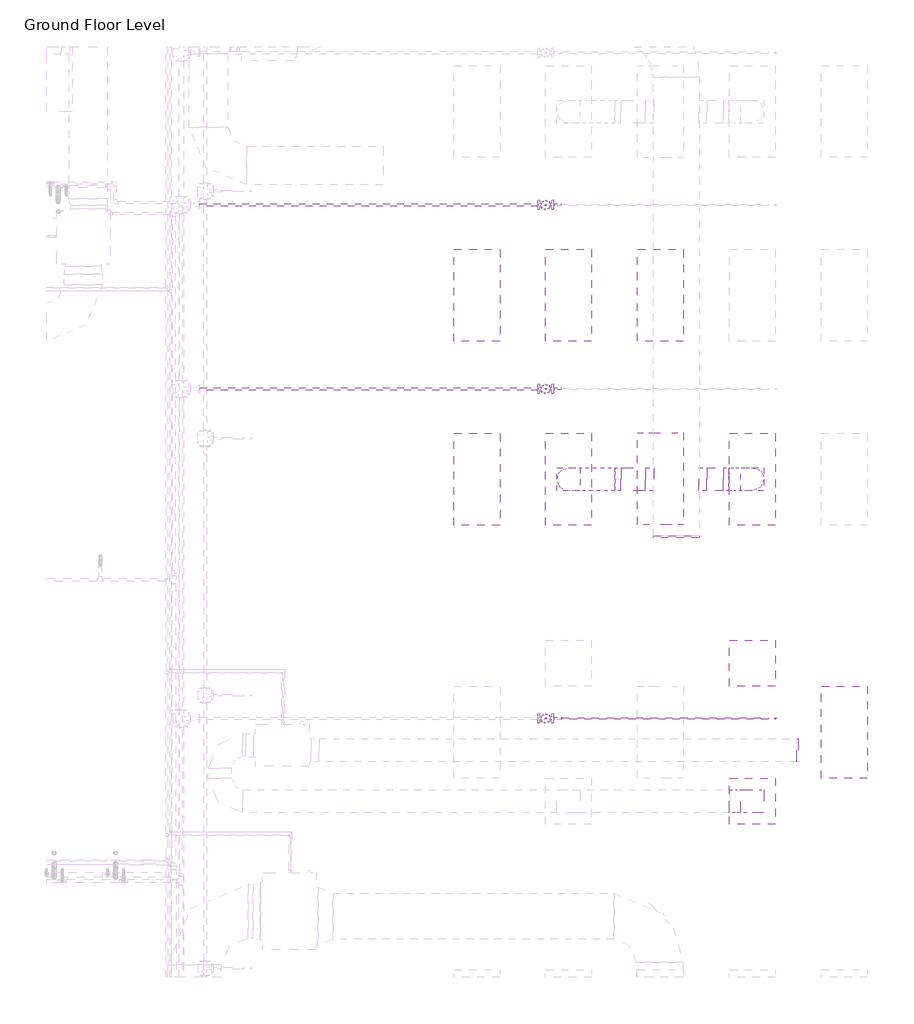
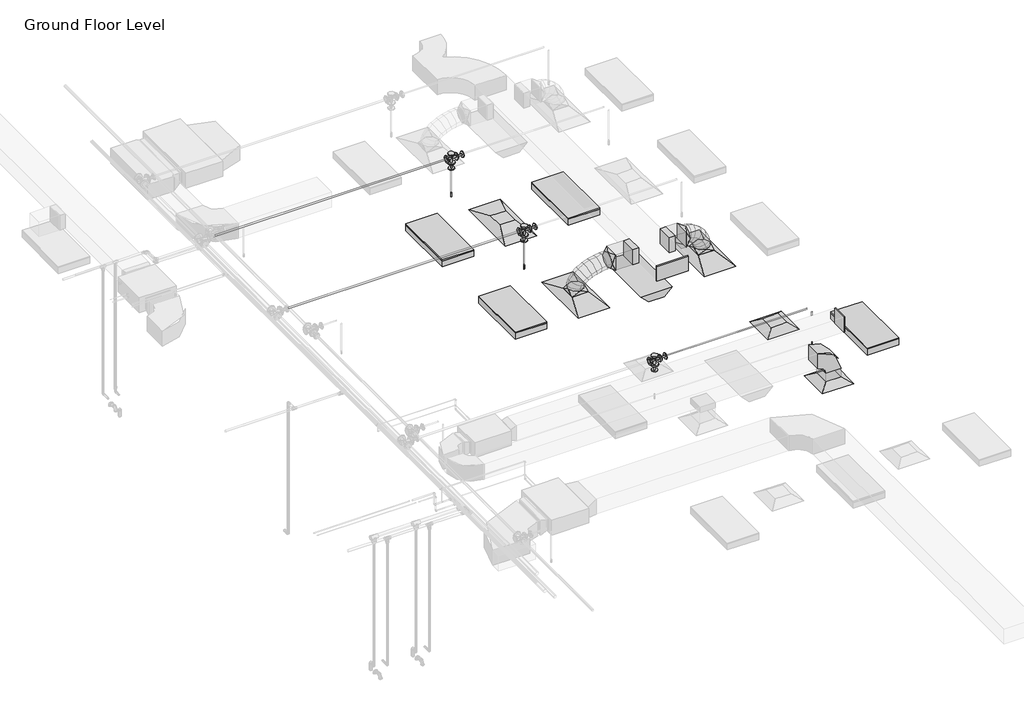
# One storey, part 23 of 75: 9 duct fittings, 9 pipe fittings, 7 pipe segments, 5 air terminals, 5 duct segments, 5 light fixtures, 3 fire suppression terminals.
"""IFC4 building model written with IfcOpenShell, lengths in millimetres."""

from ifc_helpers import new_model, si_unit, point, frame, frame_2d, origin, place, context, project, spatial, polyline, circle_curve, ellipse_curve, trimmed, segment, composite_curve, outline, extrude, transform, mapped, element, save
from ifc_brep_helpers import plane_surface, cylinder_surface, advanced_brep
from components import m_return_diffuser_1200x600_1200_x_600_face_300_x_300_d1983ef6, m_return_diffuser_600_x_600_face_300_x_300_connection_ff221211, m_rectangular_elbow_radius_1_w_618da153, m_rectangular_endcap_standard_0f0ff112, m_rectangular_endcap_standard_c319d4e7, m_rectangular_takeoff_standard_cb0ccb98, m_rectangular_takeoff_standard_2be5eba1, m_rectangular_to_round_transition_angle_45_degree_641efff0, m_sprinkler_dry_pendent_hosted_15_mm_dry_pendent_9bda8e11, m_emergency_recessed_lighting_fixture_600x1200_277_5b10b25d, m_troffer_light_parabolic_rectangular1_0600x1200mm_4_lamp_86473d4a, m_reducer_flanged_cs_class_150_standard_ccf252ad, m_tee_round_base_flanged_cs_class_150_standard_7e5987a1

model = new_model("IFC4")

# Units and contexts
model_context = context("Model", 3, world=origin())
ifc_project = project(units=[si_unit("LENGTHUNIT", "METRE", prefix="MILLI")], contexts=[model_context])

# Site, building, storey
site = spatial("IfcSite", under=ifc_project)
building = spatial("IfcBuilding", under=site)
storey = spatial("IfcBuildingStorey", under=building, Name="Ground Floor Level", Elevation=900.0)

# Air terminals
placement = place(None, origin())
m_return_diffuser_1200x600_1200_x_600_face_300_x_300_shape = m_return_diffuser_1200x600_1200_x_600_face_300_x_300_d1983ef6(model_context)
element("IfcAirTerminal", 1, ObjectType="M_Return Diffuser 1200x600 : 1200 x 600 Face 300 x 300 Connection", at=placement, inside=storey, context=model_context, shape_type="MappedRepresentation", body=[
    mapped(m_return_diffuser_1200x600_1200_x_600_face_300_x_300_shape, transform((10743.0482736, -25264.7846466, 3650.0), x_axis=(0.0, 1.0, 0.0), y_axis=(-1.0, 0.0, 0.0), z_axis=(0.0, 0.0, 1.0))),
])
m_return_diffuser_600_x_600_face_300_x_300_connection_shape = m_return_diffuser_600_x_600_face_300_x_300_connection_ff221211(model_context)
element("IfcAirTerminal", 2, ObjectType="M_Return Diffuser : 600 x 600 Face 300 x 300 Connection", at=placement, inside=storey, context=model_context, shape_type="MappedRepresentation", body=[
    mapped(m_return_diffuser_600_x_600_face_300_x_300_connection_shape, transform((13143.0482736, -31864.7846466, 3650.0), x_axis=(1.0, 0.0, 0.0), y_axis=(0.0, 1.0, 0.0), z_axis=(0.0, 0.0, 1.0))),
])
element("IfcAirTerminal", 3, ObjectType="M_Supply Diffuser 1200x600 : 1200 x 600 Face 300 x 300 Connection", at=placement, inside=storey, context=model_context, shape_type="MappedRepresentation", body=[
    mapped(m_return_diffuser_1200x600_1200_x_600_face_300_x_300_shape, transform((10743.0482736, -27664.7846466, 3650.0), x_axis=(0.0, 1.0, 0.0), y_axis=(-1.0, 0.0, 0.0), z_axis=(0.0, 0.0, 1.0))),
])
element("IfcAirTerminal", 4, ObjectType="M_Supply Diffuser 1200x600 : 1200 x 600 Face 300 x 300 Connection", at=placement, inside=storey, context=model_context, shape_type="MappedRepresentation", body=[
    mapped(m_return_diffuser_1200x600_1200_x_600_face_300_x_300_shape, transform((13143.0482736, -27664.7846466, 3650.0), x_axis=(0.0, 1.0, 0.0), y_axis=(-1.0, 0.0, 0.0), z_axis=(0.0, 0.0, 1.0))),
])
element("IfcAirTerminal", 5, ObjectType="M_Supply Diffuser : 600 x 600 Face 300 x 300 Connection", at=placement, inside=storey, context=model_context, shape_type="MappedRepresentation", body=[
    mapped(m_return_diffuser_600_x_600_face_300_x_300_connection_shape, transform((13143.0482736, -30064.7846466, 3650.0), x_axis=(1.0, 0.0, 0.0), y_axis=(0.0, 1.0, 0.0), z_axis=(0.0, 0.0, 1.0))),
])

# Duct fittings
m_rectangular_elbow_radius_1_w_shape = m_rectangular_elbow_radius_1_w_618da153(model_context)
element("IfcDuctFitting", 6, ObjectType="M_Rectangular Elbow - Radius : 1 W", at=placement, inside=storey, context=model_context, shape_type="MappedRepresentation", body=[
    mapped(m_rectangular_elbow_radius_1_w_shape, transform((13143.0482736, -31864.7846466, 4221.2), x_axis=(0.0, 0.0, 1.0), y_axis=(-1.0, 0.0, 0.0), z_axis=(0.0, -1.0, 0.0))),
])
m_rectangular_endcap_standard_shape = m_rectangular_endcap_standard_0f0ff112(model_context)
element("IfcDuctFitting", 7, ObjectType="M_Rectangular Endcap : Standard", at=placement, inside=storey, context=model_context, shape_type="MappedRepresentation", body=[
    mapped(m_rectangular_endcap_standard_shape, transform((12147.7826463, -28403.2846466, 4150.0002153), x_axis=(0.0, -1.0, 0.0), y_axis=(1.0, 0.0, 0.0), z_axis=(0.0, 0.0, 1.0))),
])
m_rectangular_endcap_standard_2_shape = m_rectangular_endcap_standard_c319d4e7(model_context)
element("IfcDuctFitting", 8, ObjectType="M_Rectangular Endcap : Standard", at=placement, inside=storey, context=model_context, shape_type="MappedRepresentation", body=[
    mapped(m_rectangular_endcap_standard_2_shape, transform((13719.2644074, -31200.1877703, 4245.9), x_axis=(0.9999999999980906, 0.0, -1.954187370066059e-06), y_axis=(0.0, 1.0000000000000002, 0.0), z_axis=(1.954187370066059e-06, 0.0, 0.9999999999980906))),
])
m_rectangular_takeoff_standard_shape = m_rectangular_takeoff_standard_cb0ccb98(model_context)
element("IfcDuctFitting", 9, ObjectType="M_Rectangular Takeoff : Standard", at=placement, inside=storey, context=model_context, shape_type="MappedRepresentation", body=[
    mapped(m_rectangular_takeoff_standard_shape, transform((12447.7826463, -27664.7846466, 4150.0), x_axis=(1.0, 0.0, 0.0), y_axis=(0.0, -1.0, 0.0), z_axis=(0.0, 0.0, -1.0))),
])
m_rectangular_takeoff_standard_2_shape = m_rectangular_takeoff_standard_2be5eba1(model_context)
element("IfcDuctFitting", 10, ObjectType="M_Rectangular Takeoff : Standard", at=placement, inside=storey, context=model_context, shape_type="MappedRepresentation", body=[
    mapped(m_rectangular_takeoff_standard_2_shape, transform((11847.7826463, -27664.7846466, 4150.0), x_axis=(-1.0, 0.0, 0.0), y_axis=(0.0, 1.0, 0.0), z_axis=(0.0, 0.0, -1.0))),
])
m_rectangular_to_round_transition_angle_45_degree_shape = m_rectangular_to_round_transition_angle_45_degree_641efff0(model_context)
element("IfcDuctFitting", 11, ObjectType="M_Rectangular to Round Transition - Angle : 45 Degree", at=placement, inside=storey, context=model_context, shape_type="MappedRepresentation", body=[
    mapped(m_rectangular_to_round_transition_angle_45_degree_shape, transform((10743.0482736, -27664.7846466, 3751.6), x_axis=(0.0, 0.0, 1.0), y_axis=(-1.0, 0.0, 0.0), z_axis=(0.0, -1.0, 0.0))),
])
element("IfcDuctFitting", 12, ObjectType="M_Rectangular to Round Transition - Angle : 45 Degree", at=placement, inside=storey, context=model_context, shape_type="MappedRepresentation", body=[
    mapped(m_rectangular_to_round_transition_angle_45_degree_shape, transform((11424.4842049, -27664.7846466, 4150.0), x_axis=(-1.0, 0.0, 0.0), y_axis=(0.0, -1.0, 0.0), z_axis=(0.0, 0.0, 1.0))),
])
element("IfcDuctFitting", 13, ObjectType="M_Rectangular to Round Transition - Angle : 45 Degree", at=placement, inside=storey, context=model_context, shape_type="MappedRepresentation", body=[
    mapped(m_rectangular_to_round_transition_angle_45_degree_shape, transform((13143.0482736, -27664.7846466, 3751.6), x_axis=(0.0, 0.0, 1.0), y_axis=(-1.0, 0.0, 0.0), z_axis=(0.0, -1.0, 0.0))),
])
element("IfcDuctFitting", 14, ObjectType="M_Rectangular to Round Transition - Angle : 45 Degree", at=placement, inside=storey, context=model_context, shape_type="MappedRepresentation", body=[
    mapped(m_rectangular_to_round_transition_angle_45_degree_shape, transform((12761.6123697, -27664.7846466, 4150.0), x_axis=(1.0, 0.0, 0.0), y_axis=(0.0, 1.0, 0.0), z_axis=(0.0, 0.0, 1.0))),
])

# Duct segments
element("IfcDuctSegment", 15, ObjectType="Flex - Round", at=placement, inside=storey, context=model_context, shape_type="AdvancedBrep", body=[
    advanced_brep(
    [(10893.0482736, -27664.7846466, 3826.6), (10743.0482736, -27814.7846466, 3826.6), (10593.0482736, -27664.7846466, 3826.6), (10743.0482736, -27514.7846466, 3826.6), (10893.0482736, -27664.7846466, 3832.4838104), (10743.0482736, -27814.7846466, 3857.3049615), (10593.0482736, -27664.7846466, 3882.1261126), (10743.0482736, -27514.7846466, 3857.3049615), (10895.1777586, -27664.7846466, 3838.7421096), (10759.7096782, -27814.7846466, 3906.2708192), (10624.2415979, -27664.7846466, 3973.7995287), (10759.7096782, -27514.7846466, 3906.2708192), (10917.1997864, -27664.7846466, 3871.1472855), (10805.5876959, -27814.7846466, 3973.7798261), (10693.9756053, -27664.7846466, 4076.4123668), (10805.5876959, -27514.7846466, 3973.7798261), (10957.142511, -27664.7846466, 3903.4915826), (10874.5230324, -27814.7846466, 4029.6013814), (10791.9035539, -27664.7846466, 4155.7111802), (10874.5230324, -27514.7846466, 4029.6013814), (11020.0646936, -27664.7846466, 3936.1928758), (10960.3563938, -27814.7846466, 4074.2098454), (10900.6480941, -27664.7846466, 4212.226815), (10960.3563938, -27514.7846466, 4074.2098454), (11098.9170855, -27664.7846466, 3963.8479616), (11056.9284859, -27814.7846466, 4108.0795788), (11014.9398863, -27664.7846466, 4252.311196), (11056.9284859, -27514.7846466, 4108.0795788), (11185.4890682, -27664.7846466, 3984.0509494), (11158.0800145, -27814.7846466, 4131.684942), (11130.6709609, -27664.7846466, 4279.3189347), (11158.0800145, -27514.7846466, 4131.684942), (11271.9732516, -27664.7846466, 3996.0504424), (11257.6516856, -27814.7846466, 4145.5002956), (11243.3301196, -27664.7846466, 4294.9501488), (11257.6516856, -27514.7846466, 4145.5002956), (11346.1345531, -27664.7846466, 4000.0), (11342.1431577, -27814.7846466, 4150.0), (11338.1517622, -27664.7846466, 4300.0), (11342.1431577, -27514.7846466, 4150.0), (11349.4842049, -27664.7846466, 4000.0), (11349.4842049, -27514.7846466, 4150.0), (11349.4842049, -27664.7846466, 4300.0), (11349.4842049, -27814.7846466, 4150.0)],
    [
        (0, 1, circle_curve(frame((10743.0482736, -27664.7846466, 3826.6), z_axis=(0.0, 0.0, -1.0), x_axis=(1.0, 0.0, 0.0)), 150.0)),
        (1, 2, circle_curve(frame((10743.0482736, -27664.7846466, 3826.6), z_axis=(0.0, 0.0, -1.0), x_axis=(1.0, 0.0, 0.0)), 150.0)),
        (2, 3, circle_curve(frame((10743.0482736, -27664.7846466, 3826.6), z_axis=(0.0, 0.0, -1.0), x_axis=(1.0, 0.0, 0.0)), 150.0)),
        (3, 0, circle_curve(frame((10743.0482736, -27664.7846466, 3826.6), z_axis=(0.0, 0.0, -1.0), x_axis=(1.0, 0.0, 0.0)), 150.0)),
        (0, 4),
        (4, 5, ellipse_curve(frame((10743.0482736, -27664.7846466, 3857.3049615), z_axis=(-0.1632543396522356, 0.0, -0.9865840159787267), x_axis=(0.9865840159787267, 0.0, -0.16325433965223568)), 152.039763, 150.0)),
        (5, 1),
        (5, 6, ellipse_curve(frame((10743.0482736, -27664.7846466, 3857.3049615), z_axis=(-0.1632543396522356, 0.0, -0.9865840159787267), x_axis=(0.9865840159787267, 0.0, -0.16325433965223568)), 152.039763, 150.0)),
        (6, 2),
        (6, 7, ellipse_curve(frame((10743.0482736, -27664.7846466, 3857.3049615), z_axis=(-0.1632543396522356, 0.0, -0.9865840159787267), x_axis=(0.9865840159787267, 0.0, -0.16325433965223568)), 152.039763, 150.0)),
        (7, 3),
        (7, 4, ellipse_curve(frame((10743.0482736, -27664.7846466, 3857.3049615), z_axis=(-0.1632543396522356, 0.0, -0.9865840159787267), x_axis=(0.9865840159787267, 0.0, -0.16325433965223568)), 152.039763, 150.0)),
        (4, 8),
        (8, 9, ellipse_curve(frame((10759.7096782, -27664.7846466, 3906.2708192), z_axis=(-0.4461280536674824, 0.0, -0.8949691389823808), x_axis=(0.8949691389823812, 0.0, -0.44612805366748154)), 151.366203, 150.0)),
        (9, 5),
        (9, 10, ellipse_curve(frame((10759.7096782, -27664.7846466, 3906.2708192), z_axis=(-0.4461280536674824, 0.0, -0.8949691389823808), x_axis=(0.8949691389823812, 0.0, -0.44612805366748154)), 151.366203, 150.0)),
        (10, 6),
        (10, 11, ellipse_curve(frame((10759.7096782, -27664.7846466, 3906.2708192), z_axis=(-0.4461280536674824, 0.0, -0.8949691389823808), x_axis=(0.8949691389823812, 0.0, -0.44612805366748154)), 151.366203, 150.0)),
        (11, 7),
        (11, 8, ellipse_curve(frame((10759.7096782, -27664.7846466, 3906.2708192), z_axis=(-0.4461280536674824, 0.0, -0.8949691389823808), x_axis=(0.8949691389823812, 0.0, -0.44612805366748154)), 151.366203, 150.0)),
        (8, 12),
        (12, 13, ellipse_curve(frame((10805.5876959, -27664.7846466, 3973.7798261), z_axis=(-0.6768758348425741, 0.0, -0.7360972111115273), x_axis=(0.7360972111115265, 0.0, -0.6768758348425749)), 151.6268352, 150.0)),
        (13, 9),
        (13, 14, ellipse_curve(frame((10805.5876959, -27664.7846466, 3973.7798261), z_axis=(-0.6768758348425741, 0.0, -0.7360972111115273), x_axis=(0.7360972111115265, 0.0, -0.6768758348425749)), 151.6268352, 150.0)),
        (14, 10),
        (14, 15, ellipse_curve(frame((10805.5876959, -27664.7846466, 3973.7798261), z_axis=(-0.6768758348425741, 0.0, -0.7360972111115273), x_axis=(0.7360972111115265, 0.0, -0.6768758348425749)), 151.6268352, 150.0)),
        (15, 11),
        (15, 12, ellipse_curve(frame((10805.5876959, -27664.7846466, 3973.7798261), z_axis=(-0.6768758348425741, 0.0, -0.7360972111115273), x_axis=(0.7360972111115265, 0.0, -0.6768758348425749)), 151.6268352, 150.0)),
        (12, 16),
        (16, 17, ellipse_curve(frame((10874.5230324, -27664.7846466, 4029.6013814), z_axis=(-0.8364738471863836, 0.0, -0.5480068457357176), x_axis=(0.5480068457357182, 0.0, -0.8364738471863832)), 150.7635884, 150.0)),
        (17, 13),
        (17, 18, ellipse_curve(frame((10874.5230324, -27664.7846466, 4029.6013814), z_axis=(-0.8364738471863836, 0.0, -0.5480068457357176), x_axis=(0.5480068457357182, 0.0, -0.8364738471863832)), 150.7635884, 150.0)),
        (18, 14),
        (18, 19, ellipse_curve(frame((10874.5230324, -27664.7846466, 4029.6013814), z_axis=(-0.8364738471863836, 0.0, -0.5480068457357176), x_axis=(0.5480068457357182, 0.0, -0.8364738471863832)), 150.7635884, 150.0)),
        (19, 15),
        (19, 16, ellipse_curve(frame((10874.5230324, -27664.7846466, 4029.6013814), z_axis=(-0.8364738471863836, 0.0, -0.5480068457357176), x_axis=(0.5480068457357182, 0.0, -0.8364738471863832)), 150.7635884, 150.0)),
        (16, 20),
        (20, 21, ellipse_curve(frame((10960.3563938, -27664.7846466, 4074.2098454), z_axis=(-0.9177957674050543, 0.0, -0.3970528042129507), x_axis=(0.3970528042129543, 0.0, -0.9177957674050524)), 150.3787384, 150.0)),
        (21, 17),
        (21, 22, ellipse_curve(frame((10960.3563938, -27664.7846466, 4074.2098454), z_axis=(-0.9177957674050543, 0.0, -0.3970528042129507), x_axis=(0.3970528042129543, 0.0, -0.9177957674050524)), 150.3787384, 150.0)),
        (22, 18),
        (22, 23, ellipse_curve(frame((10960.3563938, -27664.7846466, 4074.2098454), z_axis=(-0.9177957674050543, 0.0, -0.3970528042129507), x_axis=(0.3970528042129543, 0.0, -0.9177957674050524)), 150.3787384, 150.0)),
        (23, 19),
        (23, 20, ellipse_curve(frame((10960.3563938, -27664.7846466, 4074.2098454), z_axis=(-0.9177957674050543, 0.0, -0.3970528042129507), x_axis=(0.3970528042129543, 0.0, -0.9177957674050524)), 150.3787384, 150.0)),
        (20, 24),
        (24, 25, ellipse_curve(frame((11056.9284859, -27664.7846466, 4108.0795788), z_axis=(-0.9601411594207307, 0.0, -0.27951557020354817), x_axis=(0.2795155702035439, 0.0, -0.9601411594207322)), 150.2191795, 150.0)),
        (25, 21),
        (25, 26, ellipse_curve(frame((11056.9284859, -27664.7846466, 4108.0795788), z_axis=(-0.9601411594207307, 0.0, -0.27951557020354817), x_axis=(0.2795155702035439, 0.0, -0.9601411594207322)), 150.2191795, 150.0)),
        (26, 22),
        (26, 27, ellipse_curve(frame((11056.9284859, -27664.7846466, 4108.0795788), z_axis=(-0.9601411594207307, 0.0, -0.27951557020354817), x_axis=(0.2795155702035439, 0.0, -0.9601411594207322)), 150.2191795, 150.0)),
        (27, 23),
        (27, 24, ellipse_curve(frame((11056.9284859, -27664.7846466, 4108.0795788), z_axis=(-0.9601411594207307, 0.0, -0.27951557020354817), x_axis=(0.2795155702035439, 0.0, -0.9601411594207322)), 150.2191795, 150.0)),
        (24, 28),
        (28, 29, ellipse_curve(frame((11158.0800145, -27664.7846466, 4131.684942), z_axis=(-0.9831991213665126, 0.0, -0.1825362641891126), x_axis=(0.18253626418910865, 0.0, -0.9831991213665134)), 150.1567581, 150.0)),
        (29, 25),
        (29, 30, ellipse_curve(frame((11158.0800145, -27664.7846466, 4131.684942), z_axis=(-0.9831991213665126, 0.0, -0.1825362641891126), x_axis=(0.18253626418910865, 0.0, -0.9831991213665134)), 150.1567581, 150.0)),
        (30, 26),
        (30, 31, ellipse_curve(frame((11158.0800145, -27664.7846466, 4131.684942), z_axis=(-0.9831991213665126, 0.0, -0.1825362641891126), x_axis=(0.18253626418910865, 0.0, -0.9831991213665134)), 150.1567581, 150.0)),
        (31, 27),
        (31, 28, ellipse_curve(frame((11158.0800145, -27664.7846466, 4131.684942), z_axis=(-0.9831991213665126, 0.0, -0.1825362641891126), x_axis=(0.18253626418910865, 0.0, -0.9831991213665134)), 150.1567581, 150.0)),
        (28, 32),
        (32, 33, ellipse_curve(frame((11257.6516856, -27664.7846466, 4145.5002956), z_axis=(-0.9954398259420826, 0.0, -0.09539157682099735), x_axis=(0.09539157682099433, 0.0, -0.9954398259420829)), 150.1344926, 150.0)),
        (33, 29),
        (33, 34, ellipse_curve(frame((11257.6516856, -27664.7846466, 4145.5002956), z_axis=(-0.9954398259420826, 0.0, -0.09539157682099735), x_axis=(0.09539157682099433, 0.0, -0.9954398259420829)), 150.1344926, 150.0)),
        (34, 30),
        (34, 35, ellipse_curve(frame((11257.6516856, -27664.7846466, 4145.5002956), z_axis=(-0.9954398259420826, 0.0, -0.09539157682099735), x_axis=(0.09539157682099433, 0.0, -0.9954398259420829)), 150.1344926, 150.0)),
        (35, 31),
        (35, 32, ellipse_curve(frame((11257.6516856, -27664.7846466, 4145.5002956), z_axis=(-0.9954398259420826, 0.0, -0.09539157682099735), x_axis=(0.09539157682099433, 0.0, -0.9954398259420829)), 150.1344926, 150.0)),
        (32, 36),
        (36, 37, ellipse_curve(frame((11342.1431577, -27664.7846466, 4150.0), z_axis=(-0.9996461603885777, 0.0, -0.02659988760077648), x_axis=(0.026599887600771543, 0.0, -0.9996461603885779)), 150.0530947, 150.0)),
        (37, 33),
        (37, 38, ellipse_curve(frame((11342.1431577, -27664.7846466, 4150.0), z_axis=(-0.9996461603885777, 0.0, -0.02659988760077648), x_axis=(0.026599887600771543, 0.0, -0.9996461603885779)), 150.0530947, 150.0)),
        (38, 34),
        (38, 39, ellipse_curve(frame((11342.1431577, -27664.7846466, 4150.0), z_axis=(-0.9996461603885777, 0.0, -0.02659988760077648), x_axis=(0.026599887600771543, 0.0, -0.9996461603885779)), 150.0530947, 150.0)),
        (39, 35),
        (39, 36, ellipse_curve(frame((11342.1431577, -27664.7846466, 4150.0), z_axis=(-0.9996461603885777, 0.0, -0.02659988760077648), x_axis=(0.026599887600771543, 0.0, -0.9996461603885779)), 150.0530947, 150.0)),
        (40, 41, circle_curve(frame((11349.4842049, -27664.7846466, 4150.0), z_axis=(1.0, 0.0, 0.0), x_axis=(0.0, 0.0, -1.0)), 150.0)),
        (41, 42, circle_curve(frame((11349.4842049, -27664.7846466, 4150.0), z_axis=(1.0, 0.0, 0.0), x_axis=(0.0, 0.0, -1.0)), 150.0)),
        (42, 43, circle_curve(frame((11349.4842049, -27664.7846466, 4150.0), z_axis=(1.0, 0.0, 0.0), x_axis=(0.0, 0.0, -1.0)), 150.0)),
        (43, 40, circle_curve(frame((11349.4842049, -27664.7846466, 4150.0), z_axis=(1.0, 0.0, 0.0), x_axis=(0.0, 0.0, -1.0)), 150.0)),
        (36, 40),
        (43, 37),
        (42, 38),
        (41, 39),
    ],
    [
        plane_surface(frame((10743.0482736, -27814.7846466, 3826.6), z_axis=(0.0, 0.0, -1.0), x_axis=(1.0, 0.0, 0.0))),
        cylinder_surface(frame((10743.0482736, -27664.7846466, 3826.6), z_axis=(0.0, 0.0, -1.0), x_axis=(1.0, 0.0, 0.0)), 150.0),
        cylinder_surface(frame((10743.0482736, -27664.7846466, 3857.3049615), z_axis=(-0.32212824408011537, 0.0, -0.946696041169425), x_axis=(0.946696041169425, 0.0, -0.32212824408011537)), 150.0),
        cylinder_surface(frame((10759.7096782, -27664.7846466, 3906.2708192), z_axis=(-0.5620745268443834, 0.0, -0.827086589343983), x_axis=(0.827086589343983, 0.0, -0.5620745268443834)), 150.0),
        cylinder_surface(frame((10805.5876959, -27664.7846466, 3973.7798261), z_axis=(-0.7771524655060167, 0.0, -0.6293123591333), x_axis=(0.6293123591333, 0.0, -0.7771524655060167)), 150.0),
        cylinder_surface(frame((10874.5230324, -27664.7846466, 4029.6013814), z_axis=(-0.8873220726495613, 0.0, -0.4611502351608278), x_axis=(0.4611502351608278, 0.0, -0.8873220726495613)), 150.0),
        cylinder_surface(frame((10960.3563938, -27664.7846466, 4074.2098454), z_axis=(-0.9436464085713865, 0.0, -0.33095536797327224), x_axis=(0.33095536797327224, 0.0, -0.9436464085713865)), 150.0),
        cylinder_surface(frame((11056.9284859, -27664.7846466, 4108.0795788), z_axis=(-0.9738340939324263, 0.0, -0.22726010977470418), x_axis=(0.22726010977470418, 0.0, -0.9738340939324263)), 150.0),
        cylinder_surface(frame((11158.0800145, -27664.7846466, 4131.684942), z_axis=(-0.9905113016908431, 0.0, -0.13743129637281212), x_axis=(0.13743129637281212, 0.0, -0.9905113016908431)), 150.0),
        cylinder_surface(frame((11257.6516856, -27664.7846466, 4145.5002956), z_axis=(-0.9985848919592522, 0.0, -0.05318095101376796), x_axis=(0.05318095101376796, 0.0, -0.9985848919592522)), 150.0),
        plane_surface(frame((11349.4842049, -27664.7846466, 4000.0), z_axis=(1.0, 0.0, 0.0), x_axis=(0.0, 1.0, 0.0))),
        cylinder_surface(frame((11342.1431577, -27664.7846466, 4150.0), z_axis=(-1.0, 0.0, 0.0), x_axis=(0.0, 0.0, -1.0)), 150.0),
    ],
    [
        (0, [[1, 2, 3, 4]]),
        (1, [[-1, 5, 6, 7]]),
        (1, [[-2, -7, 8, 9]]),
        (1, [[-3, -9, 10, 11]]),
        (1, [[-4, -11, 12, -5]]),
        (2, [[-6, 13, 14, 15]]),
        (2, [[-8, -15, 16, 17]]),
        (2, [[-10, -17, 18, 19]]),
        (2, [[-12, -19, 20, -13]]),
        (3, [[-14, 21, 22, 23]]),
        (3, [[-16, -23, 24, 25]]),
        (3, [[-18, -25, 26, 27]]),
        (3, [[-20, -27, 28, -21]]),
        (4, [[-22, 29, 30, 31]]),
        (4, [[-24, -31, 32, 33]]),
        (4, [[-26, -33, 34, 35]]),
        (4, [[-28, -35, 36, -29]]),
        (5, [[-30, 37, 38, 39]]),
        (5, [[-32, -39, 40, 41]]),
        (5, [[-34, -41, 42, 43]]),
        (5, [[-36, -43, 44, -37]]),
        (6, [[-38, 45, 46, 47]]),
        (6, [[-40, -47, 48, 49]]),
        (6, [[-42, -49, 50, 51]]),
        (6, [[-44, -51, 52, -45]]),
        (7, [[-46, 53, 54, 55]]),
        (7, [[-48, -55, 56, 57]]),
        (7, [[-50, -57, 58, 59]]),
        (7, [[-52, -59, 60, -53]]),
        (8, [[-54, 61, 62, 63]]),
        (8, [[-56, -63, 64, 65]]),
        (8, [[-58, -65, 66, 67]]),
        (8, [[-60, -67, 68, -61]]),
        (9, [[-62, 69, 70, 71]]),
        (9, [[-64, -71, 72, 73]]),
        (9, [[-66, -73, 74, 75]]),
        (9, [[-68, -75, 76, -69]]),
        (10, [[77, 78, 79, 80]]),
        (11, [[-70, 81, -80, 82]]),
        (11, [[-72, -82, -79, 83]]),
        (11, [[-74, -83, -78, 84]]),
        (11, [[-76, -84, -77, -81]]),
    ],
),
])
element("IfcDuctSegment", 16, ObjectType="Flex - Round", at=placement, inside=storey, context=model_context, shape_type="AdvancedBrep", body=[
    advanced_brep(
    [(13293.0482736, -27664.7846466, 3826.6), (13143.0482736, -27814.7846466, 3826.6), (12993.0482736, -27664.7846466, 3826.6), (13143.0482736, -27514.7846466, 3826.6), (13293.0482736, -27664.7846466, 3876.0801767), (13143.0482736, -27814.7846466, 3855.2056793), (12993.0482736, -27664.7846466, 3834.331182), (13143.0482736, -27514.7846466, 3855.2056793), (13265.1827192, -27664.7846466, 3974.2594203), (13125.4356677, -27814.7846466, 3917.2605124), (12985.6886162, -27664.7846466, 3860.2616044), (13125.4356677, -27514.7846466, 3917.2605124), (13200.6413272, -27664.7846466, 4092.9659573), (13077.9530197, -27814.7846466, 4004.5920764), (12955.2647122, -27664.7846466, 3916.2181955), (13077.9530197, -27514.7846466, 4004.5920764), (13104.756489, -27664.7846466, 4195.7964668), (13008.6330843, -27814.7846466, 4078.9333843), (12912.5096796, -27664.7846466, 3962.0703018), (13008.6330843, -27514.7846466, 4078.9333843), (12990.1100986, -27664.7846466, 4267.0876603), (12925.5086161, -27814.7846466, 4130.6231281), (12860.9071335, -27664.7846466, 3994.1585959), (12925.5086161, -27514.7846466, 4130.6231281), (12893.3774283, -27664.7846466, 4300.0), (12868.5580444, -27814.7846466, 4150.0), (12843.7386605, -27664.7846466, 4000.0), (12868.5580444, -27514.7846466, 4150.0), (12836.6123697, -27664.7846466, 4300.0), (12836.6123697, -27814.7846466, 4150.0), (12836.6123697, -27664.7846466, 4000.0), (12836.6123697, -27514.7846466, 4150.0)],
    [
        (0, 1, circle_curve(frame((13143.0482736, -27664.7846466, 3826.6), z_axis=(0.0, 0.0, -1.0), x_axis=(1.0, 0.0, 0.0)), 150.0)),
        (1, 2, circle_curve(frame((13143.0482736, -27664.7846466, 3826.6), z_axis=(0.0, 0.0, -1.0), x_axis=(1.0, 0.0, 0.0)), 150.0)),
        (2, 3, circle_curve(frame((13143.0482736, -27664.7846466, 3826.6), z_axis=(0.0, 0.0, -1.0), x_axis=(1.0, 0.0, 0.0)), 150.0)),
        (3, 0, circle_curve(frame((13143.0482736, -27664.7846466, 3826.6), z_axis=(0.0, 0.0, -1.0), x_axis=(1.0, 0.0, 0.0)), 150.0)),
        (0, 4),
        (4, 5, ellipse_curve(frame((13143.0482736, -27664.7846466, 3855.2056793), z_axis=(0.13783502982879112, 0.0, -0.990455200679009), x_axis=(-0.990455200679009, 0.0, -0.1378350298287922)), 151.4455171, 150.0)),
        (5, 1),
        (5, 6, ellipse_curve(frame((13143.0482736, -27664.7846466, 3855.2056793), z_axis=(0.13783502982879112, 0.0, -0.990455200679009), x_axis=(-0.990455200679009, 0.0, -0.1378350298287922)), 151.4455171, 150.0)),
        (6, 2),
        (6, 7, ellipse_curve(frame((13143.0482736, -27664.7846466, 3855.2056793), z_axis=(0.13783502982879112, 0.0, -0.990455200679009), x_axis=(-0.990455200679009, 0.0, -0.1378350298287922)), 151.4455171, 150.0)),
        (7, 3),
        (7, 4, ellipse_curve(frame((13143.0482736, -27664.7846466, 3855.2056793), z_axis=(0.13783502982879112, 0.0, -0.990455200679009), x_axis=(-0.990455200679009, 0.0, -0.1378350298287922)), 151.4455171, 150.0)),
        (4, 8),
        (8, 9, ellipse_curve(frame((13125.4356677, -27664.7846466, 3917.2605124), z_axis=(0.37766579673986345, 0.0, -0.9259419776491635), x_axis=(-0.9259419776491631, 0.0, -0.3776657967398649)), 150.9241992, 150.0)),
        (9, 5),
        (9, 10, ellipse_curve(frame((13125.4356677, -27664.7846466, 3917.2605124), z_axis=(0.37766579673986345, 0.0, -0.9259419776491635), x_axis=(-0.9259419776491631, 0.0, -0.3776657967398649)), 150.9241992, 150.0)),
        (10, 6),
        (10, 11, ellipse_curve(frame((13125.4356677, -27664.7846466, 3917.2605124), z_axis=(0.37766579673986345, 0.0, -0.9259419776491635), x_axis=(-0.9259419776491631, 0.0, -0.3776657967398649)), 150.9241992, 150.0)),
        (11, 7),
        (11, 8, ellipse_curve(frame((13125.4356677, -27664.7846466, 3917.2605124), z_axis=(0.37766579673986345, 0.0, -0.9259419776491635), x_axis=(-0.9259419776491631, 0.0, -0.3776657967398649)), 150.9241992, 150.0)),
        (8, 12),
        (12, 13, ellipse_curve(frame((13077.9530197, -27664.7846466, 4004.5920764), z_axis=(0.584471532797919, 0.0, -0.8114142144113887), x_axis=(-0.8114142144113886, 0.0, -0.5844715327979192)), 151.2030542, 150.0)),
        (13, 9),
        (13, 14, ellipse_curve(frame((13077.9530197, -27664.7846466, 4004.5920764), z_axis=(0.584471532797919, 0.0, -0.8114142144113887), x_axis=(-0.8114142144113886, 0.0, -0.5844715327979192)), 151.2030542, 150.0)),
        (14, 10),
        (14, 15, ellipse_curve(frame((13077.9530197, -27664.7846466, 4004.5920764), z_axis=(0.584471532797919, 0.0, -0.8114142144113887), x_axis=(-0.8114142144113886, 0.0, -0.5844715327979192)), 151.2030542, 150.0)),
        (15, 11),
        (15, 12, ellipse_curve(frame((13077.9530197, -27664.7846466, 4004.5920764), z_axis=(0.584471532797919, 0.0, -0.8114142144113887), x_axis=(-0.8114142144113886, 0.0, -0.5844715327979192)), 151.2030542, 150.0)),
        (12, 16),
        (16, 17, ellipse_curve(frame((13008.6330843, -27664.7846466, 4078.9333843), z_axis=(0.7723088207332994, 0.0, -0.6352472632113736), x_axis=(-0.6352472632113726, 0.0, -0.7723088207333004)), 151.3165192, 150.0)),
        (17, 13),
        (17, 18, ellipse_curve(frame((13008.6330843, -27664.7846466, 4078.9333843), z_axis=(0.7723088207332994, 0.0, -0.6352472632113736), x_axis=(-0.6352472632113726, 0.0, -0.7723088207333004)), 151.3165192, 150.0)),
        (18, 14),
        (18, 19, ellipse_curve(frame((13008.6330843, -27664.7846466, 4078.9333843), z_axis=(0.7723088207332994, 0.0, -0.6352472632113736), x_axis=(-0.6352472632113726, 0.0, -0.7723088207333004)), 151.3165192, 150.0)),
        (19, 15),
        (19, 16, ellipse_curve(frame((13008.6330843, -27664.7846466, 4078.9333843), z_axis=(0.7723088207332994, 0.0, -0.6352472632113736), x_axis=(-0.6352472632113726, 0.0, -0.7723088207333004)), 151.3165192, 150.0)),
        (16, 20),
        (20, 21, ellipse_curve(frame((12925.5086161, -27664.7846466, 4130.6231281), z_axis=(0.9038393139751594, 0.0, -0.4278720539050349), x_axis=(-0.42787205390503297, 0.0, -0.9038393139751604)), 150.9831782, 150.0)),
        (21, 17),
        (21, 22, ellipse_curve(frame((12925.5086161, -27664.7846466, 4130.6231281), z_axis=(0.9038393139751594, 0.0, -0.4278720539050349), x_axis=(-0.42787205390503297, 0.0, -0.9038393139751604)), 150.9831782, 150.0)),
        (22, 18),
        (22, 23, ellipse_curve(frame((12925.5086161, -27664.7846466, 4130.6231281), z_axis=(0.9038393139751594, 0.0, -0.4278720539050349), x_axis=(-0.42787205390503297, 0.0, -0.9038393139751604)), 150.9831782, 150.0)),
        (23, 19),
        (23, 20, ellipse_curve(frame((12925.5086161, -27664.7846466, 4130.6231281), z_axis=(0.9038393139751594, 0.0, -0.4278720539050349), x_axis=(-0.42787205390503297, 0.0, -0.9038393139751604)), 150.9831782, 150.0)),
        (20, 24),
        (24, 25, ellipse_curve(frame((12868.5580444, -27664.7846466, 4150.0), z_axis=(0.9865858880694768, 0.0, -0.1632430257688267), x_axis=(-0.16324302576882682, 0.0, -0.9865858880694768)), 152.0394745, 150.0)),
        (25, 21),
        (25, 26, ellipse_curve(frame((12868.5580444, -27664.7846466, 4150.0), z_axis=(0.9865858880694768, 0.0, -0.1632430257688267), x_axis=(-0.16324302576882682, 0.0, -0.9865858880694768)), 152.0394745, 150.0)),
        (26, 22),
        (26, 27, ellipse_curve(frame((12868.5580444, -27664.7846466, 4150.0), z_axis=(0.9865858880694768, 0.0, -0.1632430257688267), x_axis=(-0.16324302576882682, 0.0, -0.9865858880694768)), 152.0394745, 150.0)),
        (27, 23),
        (27, 24, ellipse_curve(frame((12868.5580444, -27664.7846466, 4150.0), z_axis=(0.9865858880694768, 0.0, -0.1632430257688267), x_axis=(-0.16324302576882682, 0.0, -0.9865858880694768)), 152.0394745, 150.0)),
        (24, 28),
        (28, 29, circle_curve(frame((12836.6123697, -27664.7846466, 4150.0), z_axis=(1.0, 0.0, 0.0), x_axis=(0.0, 0.0, 1.0)), 150.0)),
        (29, 25),
        (29, 30, circle_curve(frame((12836.6123697, -27664.7846466, 4150.0), z_axis=(1.0, 0.0, 0.0), x_axis=(0.0, 0.0, 1.0)), 150.0)),
        (30, 26),
        (30, 31, circle_curve(frame((12836.6123697, -27664.7846466, 4150.0), z_axis=(1.0, 0.0, 0.0), x_axis=(0.0, 0.0, 1.0)), 150.0)),
        (31, 27),
        (31, 28, circle_curve(frame((12836.6123697, -27664.7846466, 4150.0), z_axis=(1.0, 0.0, 0.0), x_axis=(0.0, 0.0, 1.0)), 150.0)),
    ],
    [
        plane_surface(frame((13143.0482736, -27814.7846466, 3826.6), z_axis=(0.0, 0.0, -1.0), x_axis=(1.0, 0.0, 0.0))),
        cylinder_surface(frame((13143.0482736, -27664.7846466, 3826.6), z_axis=(0.0, 0.0, -1.0), x_axis=(1.0, 0.0, 0.0)), 150.0),
        cylinder_surface(frame((13143.0482736, -27664.7846466, 3855.2056793), z_axis=(0.27303884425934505, 0.0, -0.9620030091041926), x_axis=(0.9620030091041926, 0.0, 0.27303884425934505)), 150.0),
        cylinder_surface(frame((13125.4356677, -27664.7846466, 3917.2605124), z_axis=(0.4776674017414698, 0.0, -0.8785407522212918), x_axis=(0.8785407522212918, 0.0, 0.4776674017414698)), 150.0),
        cylinder_surface(frame((13077.9530197, -27664.7846466, 4004.5920764), z_axis=(0.6819749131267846, 0.0, -0.7313755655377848), x_axis=(0.7313755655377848, 0.0, 0.6819749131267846)), 150.0),
        cylinder_surface(frame((13008.6330843, -27664.7846466, 4078.9333843), z_axis=(0.8492038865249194, 0.0, -0.5280651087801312), x_axis=(0.5280651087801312, 0.0, 0.8492038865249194)), 150.0),
        cylinder_surface(frame((12925.5086161, -27664.7846466, 4130.6231281), z_axis=(0.9467034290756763, 0.0, -0.32210653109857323), x_axis=(0.32210653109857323, 0.0, 0.9467034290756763)), 150.0),
        cylinder_surface(frame((12868.5580444, -27664.7846466, 4150.0), z_axis=(1.0, 0.0, 0.0), x_axis=(0.0, 0.0, 1.0)), 150.0),
        plane_surface(frame((12836.6123697, -27664.7846466, 4000.0), z_axis=(-1.0, 0.0, 0.0), x_axis=(0.0, -1.0, 0.0))),
    ],
    [
        (0, [[1, 2, 3, 4]]),
        (1, [[-1, 5, 6, 7]]),
        (1, [[-2, -7, 8, 9]]),
        (1, [[-3, -9, 10, 11]]),
        (1, [[-4, -11, 12, -5]]),
        (2, [[-6, 13, 14, 15]]),
        (2, [[-8, -15, 16, 17]]),
        (2, [[-10, -17, 18, 19]]),
        (2, [[-12, -19, 20, -13]]),
        (3, [[-14, 21, 22, 23]]),
        (3, [[-16, -23, 24, 25]]),
        (3, [[-18, -25, 26, 27]]),
        (3, [[-20, -27, 28, -21]]),
        (4, [[-22, 29, 30, 31]]),
        (4, [[-24, -31, 32, 33]]),
        (4, [[-26, -33, 34, 35]]),
        (4, [[-28, -35, 36, -29]]),
        (5, [[-30, 37, 38, 39]]),
        (5, [[-32, -39, 40, 41]]),
        (5, [[-34, -41, 42, 43]]),
        (5, [[-36, -43, 44, -37]]),
        (6, [[-38, 45, 46, 47]]),
        (6, [[-40, -47, 48, 49]]),
        (6, [[-42, -49, 50, 51]]),
        (6, [[-44, -51, 52, -45]]),
        (7, [[-46, 53, 54, 55]]),
        (7, [[-48, -55, 56, 57]]),
        (7, [[-50, -57, 58, 59]]),
        (7, [[-52, -59, 60, -53]]),
        (8, [[-60, -58, -56, -54]]),
    ],
),
])
element("IfcDuctSegment", 17, ObjectType="Radius Elbows / Taps", at=placement, inside=storey, context=model_context, shape_type="SweptSolid", body=[
    extrude(outline(polyline([(11746.1826463, -27514.7846466), (11746.1826463, -27814.7846466), (11424.4842049, -27814.7846466), (11424.4842049, -27514.7846466), (11746.1826463, -27514.7846466)])), frame((0.0, 0.0, 4000.0), z_axis=(0.0, 0.0, 1.0), x_axis=(1.0, 0.0, 0.0)), (0.0, 0.0, 1.0), 300.0),
])
element("IfcDuctSegment", 18, ObjectType="Radius Elbows / Taps", at=placement, inside=storey, context=model_context, shape_type="SweptSolid", body=[
    extrude(outline(polyline([(12549.3826463, -27814.7846466), (12549.3826463, -27514.7846466), (12761.6123697, -27514.7846466), (12761.6123697, -27814.7846466), (12549.3826463, -27814.7846466)])), frame((0.0, 0.0, 4000.0), z_axis=(0.0, 0.0, 1.0), x_axis=(1.0, 0.0, 0.0)), (0.0, 0.0, 1.0), 300.0),
])
element("IfcDuctSegment", 19, ObjectType="Radius Elbows / Taps", at=placement, inside=storey, context=model_context, shape_type="SweptSolid", body=[
    extrude(outline(polyline([(12993.0482736, -32014.7846466), (12993.0482736, -31714.7846466), (13293.0482736, -31714.7846466), (13293.0482736, -32014.7846466), (12993.0482736, -32014.7846466)])), frame((0.0, 0.0, 3751.6), z_axis=(0.0, 0.0, 1.0), x_axis=(1.0, 0.0, 0.0)), (0.0, 0.0, 1.0), 169.6),
])

# Fire suppression terminals
m_sprinkler_dry_pendent_hosted_15_mm_dry_pendent_shape = m_sprinkler_dry_pendent_hosted_15_mm_dry_pendent_9bda8e11(model_context)
element("IfcFireSuppressionTerminal", 20, ObjectType="M_Sprinkler - Dry - Pendent - Hosted : 15 mm Dry Pendent", at=placement, inside=storey, context=model_context, shape_type="MappedRepresentation", body=[
    mapped(m_sprinkler_dry_pendent_hosted_15_mm_dry_pendent_shape, transform((10443.0482736, -24083.6779349, 3650.0), x_axis=(1.0, 0.0, 0.0), y_axis=(0.0, -1.0, 0.0), z_axis=(0.0, 0.0, -1.0))),
])
element("IfcFireSuppressionTerminal", 21, ObjectType="M_Sprinkler - Dry - Pendent - Hosted : 15 mm Dry Pendent", at=placement, inside=storey, context=model_context, shape_type="MappedRepresentation", body=[
    mapped(m_sprinkler_dry_pendent_hosted_15_mm_dry_pendent_shape, transform((10443.0482736, -26484.6295433, 3650.0), x_axis=(1.0, 0.0, 0.0), y_axis=(0.0, -1.0, 0.0), z_axis=(0.0, 0.0, -1.0))),
])
element("IfcFireSuppressionTerminal", 22, ObjectType="M_Sprinkler - Dry - Pendent - Hosted : 15 mm Dry Pendent", at=placement, inside=storey, context=model_context, shape_type="MappedRepresentation", body=[
    mapped(m_sprinkler_dry_pendent_hosted_15_mm_dry_pendent_shape, transform((13443.0482736, -30785.1783804, 3650.0), x_axis=(1.0, 0.0, 0.0), y_axis=(0.0, -1.0, 0.0), z_axis=(0.0, 0.0, -1.0))),
])

# Light fixtures
m_emergency_recessed_lighting_fixture_600x1200_277_shape = m_emergency_recessed_lighting_fixture_600x1200_277_5b10b25d(model_context)
element("IfcLightFixture", 23, ObjectType="M_Emergency Recessed Lighting Fixture : 600x1200 - 277", at=placement, inside=storey, context=model_context, shape_type="MappedRepresentation", body=[
    mapped(m_emergency_recessed_lighting_fixture_600x1200_277_shape, transform((11643.0482736, -28254.7846466, 3650.0), x_axis=(0.0, 1.0, 0.0), y_axis=(-1.0, 0.0, 0.0), z_axis=(0.0, 0.0, 1.0))),
])
m_troffer_light_parabolic_rectangular1_0600x1200mm_4_lamp_shape = m_troffer_light_parabolic_rectangular1_0600x1200mm_4_lamp_86473d4a(model_context)
element("IfcLightFixture", 24, ObjectType="M_Troffer Light - Parabolic Rectangular1 : 0600x1200mm(4 Lamp) - 277V 2", at=placement, inside=storey, context=model_context, shape_type="MappedRepresentation", body=[
    mapped(m_troffer_light_parabolic_rectangular1_0600x1200mm_4_lamp_shape, transform((9483.5823415, -25246.081145, 3650.0), x_axis=(0.0, 1.0, 0.0), y_axis=(-1.0, 0.0, 0.0), z_axis=(0.0, 0.0, 1.0))),
])
element("IfcLightFixture", 25, ObjectType="M_Troffer Light - Parabolic Rectangular1 : 0600x1200mm(4 Lamp) - 277V 2", at=placement, inside=storey, context=model_context, shape_type="MappedRepresentation", body=[
    mapped(m_troffer_light_parabolic_rectangular1_0600x1200mm_4_lamp_shape, transform((11883.5823415, -25246.081145, 3650.0), x_axis=(0.0, 1.0, 0.0), y_axis=(-1.0, 0.0, 0.0), z_axis=(0.0, 0.0, 1.0))),
])
element("IfcLightFixture", 26, ObjectType="M_Troffer Light - Parabolic Rectangular1 : 0600x1200mm(4 Lamp) - 277V 2", at=placement, inside=storey, context=model_context, shape_type="MappedRepresentation", body=[
    mapped(m_troffer_light_parabolic_rectangular1_0600x1200mm_4_lamp_shape, transform((9483.5823415, -27646.081145, 3650.0), x_axis=(0.0, 1.0, 0.0), y_axis=(-1.0, 0.0, 0.0), z_axis=(0.0, 0.0, 1.0))),
])
element("IfcLightFixture", 27, ObjectType="M_Troffer Light - Parabolic Rectangular1 : 0600x1200mm(4 Lamp) - 277V 2", at=placement, inside=storey, context=model_context, shape_type="MappedRepresentation", body=[
    mapped(m_troffer_light_parabolic_rectangular1_0600x1200mm_4_lamp_shape, transform((14283.5823415, -30946.081145, 3650.0), x_axis=(0.0, 1.0, 0.0), y_axis=(-1.0, 0.0, 0.0), z_axis=(0.0, 0.0, 1.0))),
])

# Pipe fittings
m_reducer_flanged_cs_class_150_standard_shape = m_reducer_flanged_cs_class_150_standard_ccf252ad(model_context)
element("IfcPipeFitting", 28, ObjectType="M_Reducer - Flanged - CS - Class 150 : Standard", at=placement, inside=storey, context=model_context, shape_type="MappedRepresentation", body=[
    mapped(m_reducer_flanged_cs_class_150_standard_shape, transform((10543.7568674, -30785.1783804, 4347.5), x_axis=(1.0, 0.0, 0.0), y_axis=(0.0, 0.0, 1.0), z_axis=(0.0, -1.0, 0.0))),
])
element("IfcPipeFitting", 29, ObjectType="M_Reducer - Flanged - CS - Class 150 : Standard", at=placement, inside=storey, context=model_context, shape_type="MappedRepresentation", body=[
    mapped(m_reducer_flanged_cs_class_150_standard_shape, transform((10443.0482736, -30785.1783804, 4246.7914063), x_axis=(0.0, 0.0, -1.0), y_axis=(-1.0, 0.0, 0.0), z_axis=(0.0, 1.0, 0.0))),
])
element("IfcPipeFitting", 30, ObjectType="M_Reducer - Flanged - CS - Class 150 : Standard", at=placement, inside=storey, context=model_context, shape_type="MappedRepresentation", body=[
    mapped(m_reducer_flanged_cs_class_150_standard_shape, transform((10543.7568674, -26484.6295433, 4347.5), x_axis=(1.0, 0.0, 0.0), y_axis=(0.0, 0.0, 1.0), z_axis=(0.0, -1.0, 0.0))),
])
element("IfcPipeFitting", 31, ObjectType="M_Reducer - Flanged - CS - Class 150 : Standard", at=placement, inside=storey, context=model_context, shape_type="MappedRepresentation", body=[
    mapped(m_reducer_flanged_cs_class_150_standard_shape, transform((10443.0482736, -26484.6295433, 4246.7914063), x_axis=(0.0, 0.0, -1.0), y_axis=(-1.0, 0.0, 0.0), z_axis=(0.0, 1.0, 0.0))),
])
element("IfcPipeFitting", 32, ObjectType="M_Reducer - Flanged - CS - Class 150 : Standard", at=placement, inside=storey, context=model_context, shape_type="MappedRepresentation", body=[
    mapped(m_reducer_flanged_cs_class_150_standard_shape, transform((10543.7568674, -24083.6779349, 4347.5), x_axis=(1.0, 0.0, 0.0), y_axis=(0.0, 0.0, 1.0), z_axis=(0.0, -1.0, 0.0))),
])
element("IfcPipeFitting", 33, ObjectType="M_Reducer - Flanged - CS - Class 150 : Standard", at=placement, inside=storey, context=model_context, shape_type="MappedRepresentation", body=[
    mapped(m_reducer_flanged_cs_class_150_standard_shape, transform((10443.0482736, -24083.6779349, 4246.7914063), x_axis=(0.0, 0.0, -1.0), y_axis=(-1.0, 0.0, 0.0), z_axis=(0.0, 1.0, 0.0))),
])
m_tee_round_base_flanged_cs_class_150_standard_shape = m_tee_round_base_flanged_cs_class_150_standard_7e5987a1(model_context)
element("IfcPipeFitting", 34, ObjectType="M_Tee Round Base - Flanged - CS - Class 150 : Standard", at=placement, inside=storey, context=model_context, shape_type="MappedRepresentation", body=[
    mapped(m_tee_round_base_flanged_cs_class_150_standard_shape, transform((10443.0482736, -30785.1783804, 4347.5), x_axis=(1.0, 0.0, 0.0), y_axis=(0.0, 0.0, 1.0), z_axis=(0.0, -1.0, 0.0))),
])
element("IfcPipeFitting", 35, ObjectType="M_Tee Round Base - Flanged - CS - Class 150 : Standard", at=placement, inside=storey, context=model_context, shape_type="MappedRepresentation", body=[
    mapped(m_tee_round_base_flanged_cs_class_150_standard_shape, transform((10443.0482736, -26484.6295433, 4347.5), x_axis=(1.0, 0.0, 0.0), y_axis=(0.0, 0.0, 1.0), z_axis=(0.0, -1.0, 0.0))),
])
element("IfcPipeFitting", 36, ObjectType="M_Tee Round Base - Flanged - CS - Class 150 : Standard", at=placement, inside=storey, context=model_context, shape_type="MappedRepresentation", body=[
    mapped(m_tee_round_base_flanged_cs_class_150_standard_shape, transform((10443.0482736, -24083.6779349, 4347.5), x_axis=(1.0, 0.0, 0.0), y_axis=(0.0, 0.0, 1.0), z_axis=(0.0, -1.0, 0.0))),
])

# Pipe segments
element("IfcPipeSegment", 37, ObjectType="Steel flanged", at=placement, inside=storey, context=model_context, shape_type="SweptSolid", body=[
    extrude(outline(composite_curve([segment(trimmed(circle_curve(frame_2d((13443.0482736, -30785.1783804)), 10.668), [point((13432.3802736, -30785.1783804))], [point((13443.0482736, -30774.5103804))], False, "CARTESIAN"), True, "CONTINUOUS"), segment(trimmed(circle_curve(frame_2d((13443.0482736, -30785.1783804)), 10.668), [point((13443.0482736, -30774.5103804))], [point((13453.7162736, -30785.1783804))], False, "CARTESIAN"), True, "CONTINUOUS"), segment(trimmed(circle_curve(frame_2d((13443.0482736, -30785.1783804)), 10.668), [point((13453.7162736, -30785.1783804))], [point((13443.0482736, -30795.8463804))], False, "CARTESIAN"), True, "CONTINUOUS"), segment(trimmed(circle_curve(frame_2d((13443.0482736, -30785.1783804)), 10.668), [point((13443.0482736, -30795.8463804))], [point((13432.3802736, -30785.1783804))], False, "CARTESIAN"), True, "CONTINUOUS")], self_intersect=False)), frame((0.0, 0.0, 3650.0), z_axis=(0.0, 0.0, 1.0), x_axis=(1.0, 0.0, 0.0)), (0.0, 0.0, 1.0), 604.4914062),
])
element("IfcPipeSegment", 38, ObjectType="Steel flanged", at=placement, inside=storey, context=model_context, shape_type="SweptSolid", body=[
    extrude(outline(composite_curve([segment(trimmed(circle_curve(frame_2d((10443.0482736, -30785.1783804)), 10.668), [point((10432.3802736, -30785.1783804))], [point((10443.0482736, -30774.5103804))], False, "CARTESIAN"), True, "CONTINUOUS"), segment(trimmed(circle_curve(frame_2d((10443.0482736, -30785.1783804)), 10.668), [point((10443.0482736, -30774.5103804))], [point((10453.7162736, -30785.1783804))], False, "CARTESIAN"), True, "CONTINUOUS"), segment(trimmed(circle_curve(frame_2d((10443.0482736, -30785.1783804)), 10.668), [point((10453.7162736, -30785.1783804))], [point((10443.0482736, -30795.8463804))], False, "CARTESIAN"), True, "CONTINUOUS"), segment(trimmed(circle_curve(frame_2d((10443.0482736, -30785.1783804)), 10.668), [point((10443.0482736, -30795.8463804))], [point((10432.3802736, -30785.1783804))], False, "CARTESIAN"), True, "CONTINUOUS")], self_intersect=False)), frame((0.0, 0.0, 3650.0), z_axis=(0.0, 0.0, 1.0), x_axis=(1.0, 0.0, 0.0)), (0.0, 0.0, 1.0), 482.7914062),
])
element("IfcPipeSegment", 39, ObjectType="Steel flanged", at=placement, inside=storey, context=model_context, shape_type="SweptSolid", body=[
    extrude(outline(composite_curve([segment(trimmed(circle_curve(frame_2d((-30785.1783804, 4347.5)), 10.668), [point((-30774.5103804, 4347.5))], [point((-30785.1783804, 4336.832))], False, "CARTESIAN"), True, "CONTINUOUS"), segment(trimmed(circle_curve(frame_2d((-30785.1783804, 4347.5)), 10.668), [point((-30785.1783804, 4336.832))], [point((-30795.8463804, 4347.5))], False, "CARTESIAN"), True, "CONTINUOUS"), segment(trimmed(circle_curve(frame_2d((-30785.1783804, 4347.5)), 10.668), [point((-30795.8463804, 4347.5))], [point((-30785.1783804, 4358.168))], False, "CARTESIAN"), True, "CONTINUOUS"), segment(trimmed(circle_curve(frame_2d((-30785.1783804, 4347.5)), 10.668), [point((-30785.1783804, 4358.168))], [point((-30774.5103804, 4347.5))], False, "CARTESIAN"), True, "CONTINUOUS")], self_intersect=False)), frame((10657.7568674, 0.0, 0.0), z_axis=(1.0, 0.0, 0.0), x_axis=(0.0, 1.0, 0.0)), (0.0, 0.0, 1.0), 2692.2828125),
])
element("IfcPipeSegment", 40, ObjectType="Steel flanged", at=placement, inside=storey, context=model_context, shape_type="SweptSolid", body=[
    extrude(outline(composite_curve([segment(trimmed(circle_curve(frame_2d((10443.0482736, -26484.6295433)), 10.668), [point((10432.3802736, -26484.6295433))], [point((10443.0482736, -26473.9615433))], False, "CARTESIAN"), True, "CONTINUOUS"), segment(trimmed(circle_curve(frame_2d((10443.0482736, -26484.6295433)), 10.668), [point((10443.0482736, -26473.9615433))], [point((10453.7162736, -26484.6295433))], False, "CARTESIAN"), True, "CONTINUOUS"), segment(trimmed(circle_curve(frame_2d((10443.0482736, -26484.6295433)), 10.668), [point((10453.7162736, -26484.6295433))], [point((10443.0482736, -26495.2975433))], False, "CARTESIAN"), True, "CONTINUOUS"), segment(trimmed(circle_curve(frame_2d((10443.0482736, -26484.6295433)), 10.668), [point((10443.0482736, -26495.2975433))], [point((10432.3802736, -26484.6295433))], False, "CARTESIAN"), True, "CONTINUOUS")], self_intersect=False)), frame((0.0, 0.0, 3650.0), z_axis=(0.0, 0.0, 1.0), x_axis=(1.0, 0.0, 0.0)), (0.0, 0.0, 1.0), 482.7914062),
])
element("IfcPipeSegment", 41, ObjectType="Steel flanged", at=placement, inside=storey, context=model_context, shape_type="SweptSolid", body=[
    extrude(outline(composite_curve([segment(trimmed(circle_curve(frame_2d((-26484.6295433, 4347.5)), 16.7005), [point((-26467.9290433, 4347.5))], [point((-26484.6295433, 4330.7995))], False, "CARTESIAN"), True, "CONTINUOUS"), segment(trimmed(circle_curve(frame_2d((-26484.6295433, 4347.5)), 16.7005), [point((-26484.6295433, 4330.7995))], [point((-26501.3300433, 4347.5))], False, "CARTESIAN"), True, "CONTINUOUS"), segment(trimmed(circle_curve(frame_2d((-26484.6295433, 4347.5)), 16.7005), [point((-26501.3300433, 4347.5))], [point((-26484.6295433, 4364.2005))], False, "CARTESIAN"), True, "CONTINUOUS"), segment(trimmed(circle_curve(frame_2d((-26484.6295433, 4347.5)), 16.7005), [point((-26484.6295433, 4364.2005))], [point((-26467.9290433, 4347.5))], False, "CARTESIAN"), True, "CONTINUOUS")], self_intersect=False)), frame((5925.6174894, 0.0, 0.0), z_axis=(1.0, 0.0, 0.0), x_axis=(0.0, 1.0, 0.0)), (0.0, 0.0, 1.0), 4416.7221905),
])
element("IfcPipeSegment", 42, ObjectType="Steel flanged", at=placement, inside=storey, context=model_context, shape_type="SweptSolid", body=[
    extrude(outline(composite_curve([segment(trimmed(circle_curve(frame_2d((10443.0482736, -24083.6779349)), 10.668), [point((10432.3802736, -24083.6779349))], [point((10443.0482736, -24073.0099349))], False, "CARTESIAN"), True, "CONTINUOUS"), segment(trimmed(circle_curve(frame_2d((10443.0482736, -24083.6779349)), 10.668), [point((10443.0482736, -24073.0099349))], [point((10453.7162736, -24083.6779349))], False, "CARTESIAN"), True, "CONTINUOUS"), segment(trimmed(circle_curve(frame_2d((10443.0482736, -24083.6779349)), 10.668), [point((10453.7162736, -24083.6779349))], [point((10443.0482736, -24094.3459349))], False, "CARTESIAN"), True, "CONTINUOUS"), segment(trimmed(circle_curve(frame_2d((10443.0482736, -24083.6779349)), 10.668), [point((10443.0482736, -24094.3459349))], [point((10432.3802736, -24083.6779349))], False, "CARTESIAN"), True, "CONTINUOUS")], self_intersect=False)), frame((0.0, 0.0, 3650.0), z_axis=(0.0, 0.0, 1.0), x_axis=(1.0, 0.0, 0.0)), (0.0, 0.0, 1.0), 482.7914062),
])
element("IfcPipeSegment", 43, ObjectType="Steel flanged", at=placement, inside=storey, context=model_context, shape_type="SweptSolid", body=[
    extrude(outline(composite_curve([segment(trimmed(circle_curve(frame_2d((-24083.6779349, 4347.5)), 16.7005), [point((-24066.9774349, 4347.5))], [point((-24083.6779349, 4330.7995))], False, "CARTESIAN"), True, "CONTINUOUS"), segment(trimmed(circle_curve(frame_2d((-24083.6779349, 4347.5)), 16.7005), [point((-24083.6779349, 4330.7995))], [point((-24100.3784349, 4347.5))], False, "CARTESIAN"), True, "CONTINUOUS"), segment(trimmed(circle_curve(frame_2d((-24083.6779349, 4347.5)), 16.7005), [point((-24100.3784349, 4347.5))], [point((-24083.6779349, 4364.2005))], False, "CARTESIAN"), True, "CONTINUOUS"), segment(trimmed(circle_curve(frame_2d((-24083.6779349, 4347.5)), 16.7005), [point((-24083.6779349, 4364.2005))], [point((-24066.9774349, 4347.5))], False, "CARTESIAN"), True, "CONTINUOUS")], self_intersect=False)), frame((5925.6174894, 0.0, 0.0), z_axis=(1.0, 0.0, 0.0), x_axis=(0.0, 1.0, 0.0)), (0.0, 0.0, 1.0), 4416.7221905),
])

save(model, "model.ifc")
